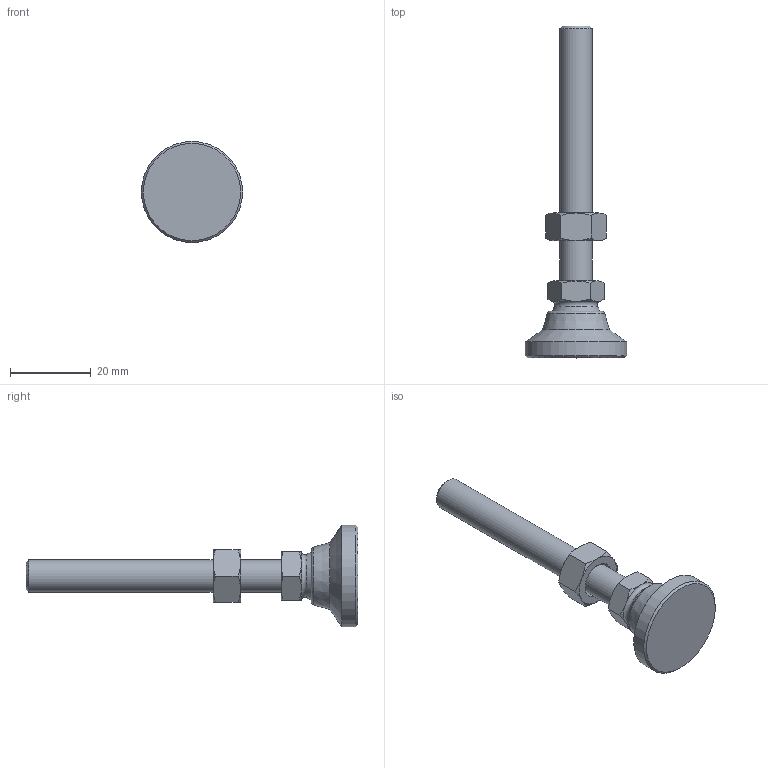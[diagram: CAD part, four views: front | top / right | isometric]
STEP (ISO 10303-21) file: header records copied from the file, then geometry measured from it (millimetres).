
FILE_DESCRIPTION( ( 'STEP AP214' ), ' ' );
FILE_NAME( 'O:/ganter_2015/teil_2/2_5/gn343_2/gn343_2_os/Levelling foot with threaded stud GN 343.2-25-M8-63-OS-(0).stp', '2015-10-26T09:06:35', ( '' ), ( '' ), ' ', 'PARTsolutions', ' ' );
FILE_SCHEMA( ( 'AUTOMOTIVE_DESIGN { 1 0 10303 214 1 1 1 1 }' ) );
Length unit declared in the file: millimetre
Products named in the file (4): Levelling foot with threaded stud GN 343.2-25-M8-63-OS-(0); _Levelling foot with threaded stud GN 343.2-25-M8-63-OS-(0)_foot; _Levelling foot with threaded stud GN 343.2-25-M8-63-OS-(0)_screw; _Stainless Steel-Levelling feet GN 343.2-25-M8-63-OS-(0)_nut
Assembly tree (3 placements, depth 2):
  Levelling foot with threaded stud GN 343.2-25-M8-63-OS-(0)
    _Levelling foot with threaded stud GN 343.2-25-M8-63-OS-(0)_foot
    _Levelling foot with threaded stud GN 343.2-25-M8-63-OS-(0)_screw
    _Stainless Steel-Levelling feet GN 343.2-25-M8-63-OS-(0)_nut
Bounding box: 25 x 82 x 25 mm (x, y, z)
Volume: 8561.1 mm3; surface area: 4672.8 mm2
Topology: 3 solids, 3 shells, 55 faces, 122 edges, 73 vertices
Faces by surface type: cone 30, plane 18, cylinder 3, torus 2, sphere 1, bspline 1
Full cylindrical faces by diameter (mm): 6.647 x1, 8 x1, 25 x1
Entity records: 2119 total; most frequent: CARTESIAN_POINT 550, ORIENTED_EDGE 210, DIRECTION 206, EDGE_CURVE 105, AXIS2_PLACEMENT_3D 97, VERTEX_POINT 71, EDGE_LOOP 70, FACE_OUTER_BOUND 60
